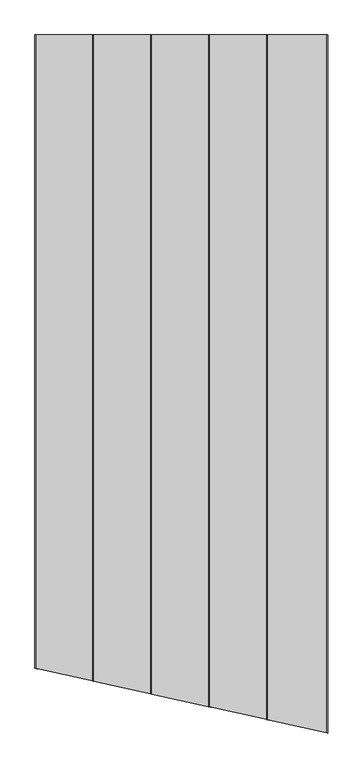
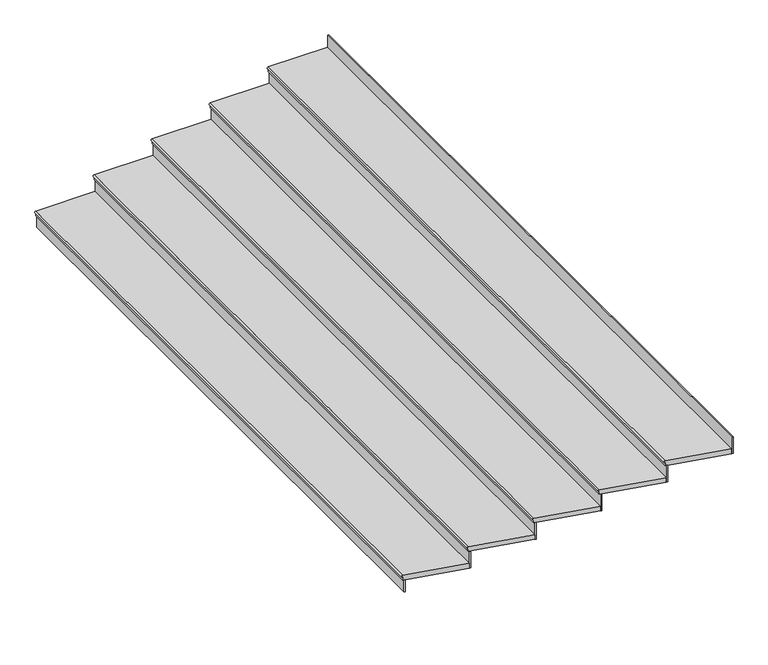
"""IFC4 building model written with IfcOpenShell, lengths in millimetres: stair flight geometry, Wood Steps with 50 mm Tread 20 mm Nosing 13 mm Riser."""

from ifc_helpers import new_model, si_unit, frame, origin, place, context, project, spatial, circle_curve, ellipse_curve, faceted_brep, source, transform, mapped, element, save
from ifc_brep_helpers import plane_surface, cylinder_surface, advanced_brep


def stair_flight_f33c184a(model_context):
    return source(origin(), model_context, "Body", "SolidModel", [
        advanced_brep(
        [(864759.1286387, 76706.6371971, 2159.2941176), (864759.1286387, 76706.6371971, 2179.2941176), (864759.1286387, 83137.2219152, 2179.2941176), (864759.1286387, 83137.2219152, 2159.2941176), (865357.5394107, 83137.2219152, 2179.2941176), (865357.5394107, 76573.969059, 2179.2941176), (864759.1286387, 83137.2219152, 2129.2941176), (865357.5394107, 83137.2219152, 2129.2941176), (865357.5394107, 76573.969059, 2129.2941176), (864759.1286387, 76706.6371971, 2129.2941176)],
        [
            (0, 1, ellipse_curve(frame((864759.1286387, 76706.6371971, 2169.2941176), z_axis=(0.2164453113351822, 0.9762947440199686, 0.0), x_axis=(0.9762947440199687, -0.21644531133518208, 0.0)), 10.2428084, 10.0)),
            (1, 2),
            (2, 3, circle_curve(frame((864759.1286387, 83137.2219152, 2169.2941176), z_axis=(0.0, -1.0, 0.0), x_axis=(1.0, 0.0, 0.0)), 10.0)),
            (3, 0),
            (4, 2),
            (1, 5),
            (5, 4),
            (6, 7),
            (7, 8),
            (8, 9),
            (9, 6),
            (4, 7),
            (6, 3),
            (9, 0),
            (8, 5),
        ],
        [
            cylinder_surface(frame((864759.1286387, 76706.6371971, 2169.2941176), z_axis=(0.0, -1.0, 0.0), x_axis=(1.0, 0.0, 0.0)), 10.0),
            plane_surface(frame((855999.6948183, 83137.2219152, 2179.2941176), z_axis=(0.0, 0.0, 1.0), x_axis=(-1.0, 0.0, 0.0))),
            plane_surface(frame((855999.6948183, 83137.2219152, 2129.2941176), z_axis=(0.0, 0.0, -1.0), x_axis=(1.0, 0.0, 0.0))),
            plane_surface(frame((865357.5394107, 83137.2219152, 2179.2941176), z_axis=(0.0, 1.0, 0.0), x_axis=(0.0, 0.0, -1.0))),
            plane_surface(frame((864759.1286387, 83137.2219152, 2179.2941176), z_axis=(-1.0, 0.0, 0.0), x_axis=(0.0, 0.0, -1.0))),
            plane_surface(frame((864759.1286387, 76706.6371971, 2179.2941176), z_axis=(-0.2164453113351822, -0.9762947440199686, 0.0), x_axis=(0.0, 0.0, -1.0))),
            plane_surface(frame((865357.5394107, 76573.969059, 2179.2941176), z_axis=(1.0, 0.0, 0.0), x_axis=(0.0, 0.0, -1.0))),
        ],
        [
            (0, [[1, 2, 3, 4]]),
            (1, [[5, -2, 6, 7]]),
            (2, [[8, 9, 10, 11]]),
            (3, [[-5, 12, -8, 13, -3]]),
            (4, [[-11, 14, -4, -13]]),
            (5, [[-6, -1, -14, -10, 15]]),
            (6, [[-7, -15, -9, -12]]),
        ],
    ),
        faceted_brep([(864769.1286387, 76704.4201892, 2129.2941176), (864769.1286387, 76704.4201892, 2000.0), (864781.6286387, 76701.6489294, 2000.0), (864781.6286387, 76701.6489294, 2129.2941176), (864769.1286387, 83137.2219152, 2129.2941176), (864781.6286387, 83137.2219152, 2129.2941176), (864781.6286387, 83137.2219152, 2000.0), (864769.1286387, 83137.2219152, 2000.0)], [[[0, 1, 2, 3]], [[4, 5, 6, 7]], [[1, 0, 4, 7]], [[2, 1, 7, 6]], [[3, 2, 6, 5]], [[0, 3, 5, 4]]]),
        faceted_brep([(865357.5394107, 76573.969059, 2308.5882353), (865357.5394107, 76573.969059, 2129.2941176), (865370.0394107, 76571.1977992, 2129.2941176), (865370.0394107, 76571.1977992, 2308.5882353), (865357.5394107, 83137.2219152, 2308.5882353), (865370.0394107, 83137.2219152, 2308.5882353), (865370.0394107, 83137.2219152, 2129.2941176), (865357.5394107, 83137.2219152, 2129.2941176)], [[[0, 1, 2, 3]], [[4, 5, 6, 7]], [[1, 0, 4, 7]], [[2, 1, 7, 6]], [[3, 2, 6, 5]], [[0, 3, 5, 4]]]),
        advanced_brep(
        [(865945.9501827, 83137.2219152, 2358.5882353), (865347.5394107, 83137.2219152, 2358.5882353), (865347.5394107, 76576.1860669, 2358.5882353), (865945.9501827, 76443.5179289, 2358.5882353), (865347.5394107, 83137.2219152, 2308.5882353), (865945.9501827, 83137.2219152, 2308.5882353), (865945.9501827, 76443.5179289, 2308.5882353), (865347.5394107, 76576.1860669, 2308.5882353), (865347.5394107, 83137.2219152, 2338.5882353), (865347.5394107, 76576.1860669, 2338.5882353)],
        [
            (0, 1),
            (1, 2),
            (2, 3),
            (3, 0),
            (4, 5),
            (5, 6),
            (6, 7),
            (7, 4),
            (0, 5),
            (4, 8),
            (8, 1, circle_curve(frame((865347.5394107, 83137.2219152, 2348.5882353), z_axis=(0.0, 1.0, 0.0), x_axis=(1.0, 0.0, 0.0)), 10.0)),
            (7, 9),
            (9, 8),
            (2, 9, ellipse_curve(frame((865347.5394107, 76576.1860669, 2348.5882353), z_axis=(-0.2164453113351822, -0.9762947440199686, 0.0), x_axis=(0.9762947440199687, -0.21644531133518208, 0.0)), 10.2428084, 10.0)),
            (6, 3),
        ],
        [
            plane_surface(frame((855999.6948183, 83137.2219152, 2358.5882353), z_axis=(0.0, 0.0, 1.0), x_axis=(-1.0, 0.0, 0.0))),
            plane_surface(frame((855999.6948183, 83137.2219152, 2308.5882353), z_axis=(0.0, 0.0, -1.0), x_axis=(1.0, 0.0, 0.0))),
            plane_surface(frame((865945.9501827, 83137.2219152, 2358.5882353), z_axis=(0.0, 1.0, 0.0), x_axis=(0.0, 0.0, -1.0))),
            plane_surface(frame((865347.5394107, 83137.2219152, 2358.5882353), z_axis=(-1.0, 0.0, 0.0), x_axis=(0.0, 0.0, -1.0))),
            plane_surface(frame((865347.5394107, 76576.1860669, 2358.5882353), z_axis=(-0.2164453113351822, -0.9762947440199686, 0.0), x_axis=(0.0, 0.0, -1.0))),
            plane_surface(frame((865945.9501827, 76443.5179289, 2358.5882353), z_axis=(1.0, 0.0, 0.0), x_axis=(0.0, 0.0, -1.0))),
            cylinder_surface(frame((865347.5394107, 76576.1860669, 2348.5882353), z_axis=(0.0, -1.0, 0.0), x_axis=(1.0, 0.0, 0.0)), 10.0),
        ],
        [
            (0, [[1, 2, 3, 4]]),
            (1, [[5, 6, 7, 8]]),
            (2, [[-1, 9, -5, 10, 11]]),
            (3, [[-8, 12, 13, -10]]),
            (4, [[-3, 14, -12, -7, 15]]),
            (5, [[-4, -15, -6, -9]]),
            (6, [[-14, -2, -11, -13]]),
        ],
    ),
        faceted_brep([(865945.9501827, 76443.5179289, 2487.8823529), (865945.9501827, 76443.5179289, 2308.5882353), (865958.4501827, 76440.7466691, 2308.5882353), (865958.4501827, 76440.7466691, 2487.8823529), (865945.9501827, 83137.2219152, 2487.8823529), (865958.4501827, 83137.2219152, 2487.8823529), (865958.4501827, 83137.2219152, 2308.5882353), (865945.9501827, 83137.2219152, 2308.5882353)], [[[0, 1, 2, 3]], [[4, 5, 6, 7]], [[1, 0, 4, 7]], [[2, 1, 7, 6]], [[3, 2, 6, 5]], [[0, 3, 5, 4]]]),
        advanced_brep(
        [(866534.3609547, 83137.2219152, 2537.8823529), (865935.9501827, 83137.2219152, 2537.8823529), (865935.9501827, 76445.7349367, 2537.8823529), (866534.3609547, 76313.0667987, 2537.8823529), (865935.9501827, 83137.2219152, 2487.8823529), (866534.3609547, 83137.2219152, 2487.8823529), (866534.3609547, 76313.0667987, 2487.8823529), (865935.9501827, 76445.7349367, 2487.8823529), (865935.9501827, 83137.2219152, 2517.8823529), (865935.9501827, 76445.7349367, 2517.8823529)],
        [
            (0, 1),
            (1, 2),
            (2, 3),
            (3, 0),
            (4, 5),
            (5, 6),
            (6, 7),
            (7, 4),
            (0, 5),
            (4, 8),
            (8, 1, circle_curve(frame((865935.9501827, 83137.2219152, 2527.8823529), z_axis=(0.0, 1.0, 0.0), x_axis=(1.0, 0.0, 0.0)), 10.0)),
            (7, 9),
            (9, 8),
            (2, 9, ellipse_curve(frame((865935.9501827, 76445.7349367, 2527.8823529), z_axis=(-0.2164453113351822, -0.9762947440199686, 0.0), x_axis=(0.9762947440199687, -0.21644531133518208, 0.0)), 10.2428084, 10.0)),
            (6, 3),
        ],
        [
            plane_surface(frame((855999.6948183, 83137.2219152, 2537.8823529), z_axis=(0.0, 0.0, 1.0), x_axis=(-1.0, 0.0, 0.0))),
            plane_surface(frame((855999.6948183, 83137.2219152, 2487.8823529), z_axis=(0.0, 0.0, -1.0), x_axis=(1.0, 0.0, 0.0))),
            plane_surface(frame((866534.3609547, 83137.2219152, 2537.8823529), z_axis=(0.0, 1.0, 0.0), x_axis=(0.0, 0.0, -1.0))),
            plane_surface(frame((865935.9501827, 83137.2219152, 2537.8823529), z_axis=(-1.0, 0.0, 0.0), x_axis=(0.0, 0.0, -1.0))),
            plane_surface(frame((865935.9501827, 76445.7349367, 2537.8823529), z_axis=(-0.2164453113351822, -0.9762947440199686, 0.0), x_axis=(0.0, 0.0, -1.0))),
            plane_surface(frame((866534.3609547, 76313.0667987, 2537.8823529), z_axis=(1.0, 0.0, 0.0), x_axis=(0.0, 0.0, -1.0))),
            cylinder_surface(frame((865935.9501827, 76445.7349367, 2527.8823529), z_axis=(0.0, -1.0, 0.0), x_axis=(1.0, 0.0, 0.0)), 10.0),
        ],
        [
            (0, [[1, 2, 3, 4]]),
            (1, [[5, 6, 7, 8]]),
            (2, [[-1, 9, -5, 10, 11]]),
            (3, [[-8, 12, 13, -10]]),
            (4, [[-3, 14, -12, -7, 15]]),
            (5, [[-4, -15, -6, -9]]),
            (6, [[-14, -2, -11, -13]]),
        ],
    ),
        faceted_brep([(866534.3609547, 76313.0667987, 2667.1764706), (866534.3609547, 76313.0667987, 2487.8823529), (866546.8609547, 76310.2955389, 2487.8823529), (866546.8609547, 76310.2955389, 2667.1764706), (866534.3609547, 83137.2219152, 2667.1764706), (866546.8609547, 83137.2219152, 2667.1764706), (866546.8609547, 83137.2219152, 2487.8823529), (866534.3609547, 83137.2219152, 2487.8823529)], [[[0, 1, 2, 3]], [[4, 5, 6, 7]], [[1, 0, 4, 7]], [[2, 1, 7, 6]], [[3, 2, 6, 5]], [[0, 3, 5, 4]]]),
        advanced_brep(
        [(867122.7717267, 83137.2219152, 2717.1764706), (866524.3609547, 83137.2219152, 2717.1764706), (866524.3609547, 76315.2838066, 2717.1764706), (867122.7717267, 76182.6156685, 2717.1764706), (866524.3609547, 83137.2219152, 2667.1764706), (867122.7717267, 83137.2219152, 2667.1764706), (867122.7717267, 76182.6156685, 2667.1764706), (866524.3609547, 76315.2838066, 2667.1764706), (866524.3609547, 83137.2219152, 2697.1764706), (866524.3609547, 76315.2838066, 2697.1764706)],
        [
            (0, 1),
            (1, 2),
            (2, 3),
            (3, 0),
            (4, 5),
            (5, 6),
            (6, 7),
            (7, 4),
            (0, 5),
            (4, 8),
            (8, 1, circle_curve(frame((866524.3609547, 83137.2219152, 2707.1764706), z_axis=(0.0, 1.0, 0.0), x_axis=(1.0, 0.0, 0.0)), 10.0)),
            (7, 9),
            (9, 8),
            (2, 9, ellipse_curve(frame((866524.3609547, 76315.2838066, 2707.1764706), z_axis=(-0.2164453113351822, -0.9762947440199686, 0.0), x_axis=(0.9762947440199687, -0.21644531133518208, 0.0)), 10.2428084, 10.0)),
            (6, 3),
        ],
        [
            plane_surface(frame((855999.6948183, 83137.2219152, 2717.1764706), z_axis=(0.0, 0.0, 1.0), x_axis=(-1.0, 0.0, 0.0))),
            plane_surface(frame((855999.6948183, 83137.2219152, 2667.1764706), z_axis=(0.0, 0.0, -1.0), x_axis=(1.0, 0.0, 0.0))),
            plane_surface(frame((867122.7717267, 83137.2219152, 2717.1764706), z_axis=(0.0, 1.0, 0.0), x_axis=(0.0, 0.0, -1.0))),
            plane_surface(frame((866524.3609547, 83137.2219152, 2717.1764706), z_axis=(-1.0, 0.0, 0.0), x_axis=(0.0, 0.0, -1.0))),
            plane_surface(frame((866524.3609547, 76315.2838066, 2717.1764706), z_axis=(-0.2164453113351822, -0.9762947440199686, 0.0), x_axis=(0.0, 0.0, -1.0))),
            plane_surface(frame((867122.7717267, 76182.6156685, 2717.1764706), z_axis=(1.0, 0.0, 0.0), x_axis=(0.0, 0.0, -1.0))),
            cylinder_surface(frame((866524.3609547, 76315.2838066, 2707.1764706), z_axis=(0.0, -1.0, 0.0), x_axis=(1.0, 0.0, 0.0)), 10.0),
        ],
        [
            (0, [[1, 2, 3, 4]]),
            (1, [[5, 6, 7, 8]]),
            (2, [[-1, 9, -5, 10, 11]]),
            (3, [[-8, 12, 13, -10]]),
            (4, [[-3, 14, -12, -7, 15]]),
            (5, [[-4, -15, -6, -9]]),
            (6, [[-14, -2, -11, -13]]),
        ],
    ),
        faceted_brep([(867122.7717267, 76182.6156685, 2846.4705882), (867122.7717267, 76182.6156685, 2667.1764706), (867135.2717267, 76179.8444087, 2667.1764706), (867135.2717267, 76179.8444087, 2846.4705882), (867122.7717267, 83137.2219152, 2846.4705882), (867135.2717267, 83137.2219152, 2846.4705882), (867135.2717267, 83137.2219152, 2667.1764706), (867122.7717267, 83137.2219152, 2667.1764706)], [[[0, 1, 2, 3]], [[4, 5, 6, 7]], [[1, 0, 4, 7]], [[2, 1, 7, 6]], [[3, 2, 6, 5]], [[0, 3, 5, 4]]]),
        faceted_brep([(867711.1824987, 76052.1645384, 3025.7647059), (867711.1824987, 76052.1645384, 2846.4705882), (867723.6824987, 76049.3932785, 2846.4705882), (867723.6824987, 76049.3932785, 3025.7647059), (867711.1824987, 83137.2219152, 3025.7647059), (867723.6824987, 83137.2219152, 3025.7647059), (867723.6824987, 83137.2219152, 2846.4705882), (867711.1824987, 83137.2219152, 2846.4705882)], [[[0, 1, 2, 3]], [[4, 5, 6, 7]], [[1, 0, 4, 7]], [[2, 1, 7, 6]], [[3, 2, 6, 5]], [[0, 3, 5, 4]]]),
        advanced_brep(
        [(867711.1824987, 83137.2219152, 2896.4705882), (867112.7717267, 83137.2219152, 2896.4705882), (867112.7717267, 76184.8326764, 2896.4705882), (867711.1824987, 76052.1645384, 2896.4705882), (867112.7717267, 83137.2219152, 2846.4705882), (867711.1824987, 83137.2219152, 2846.4705882), (867711.1824987, 76052.1645384, 2846.4705882), (867112.7717267, 76184.8326764, 2846.4705882), (867112.7717267, 83137.2219152, 2876.4705882), (867112.7717267, 76184.8326764, 2876.4705882)],
        [
            (0, 1),
            (1, 2),
            (2, 3),
            (3, 0),
            (4, 5),
            (5, 6),
            (6, 7),
            (7, 4),
            (0, 5),
            (4, 8),
            (8, 1, circle_curve(frame((867112.7717267, 83137.2219152, 2886.4705882), z_axis=(0.0, 1.0, 0.0), x_axis=(1.0, 0.0, 0.0)), 10.0)),
            (7, 9),
            (9, 8),
            (2, 9, ellipse_curve(frame((867112.7717267, 76184.8326764, 2886.4705882), z_axis=(-0.2164453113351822, -0.9762947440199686, 0.0), x_axis=(0.9762947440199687, -0.21644531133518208, 0.0)), 10.2428084, 10.0)),
            (6, 3),
        ],
        [
            plane_surface(frame((855999.6948183, 83137.2219152, 2896.4705882), z_axis=(0.0, 0.0, 1.0), x_axis=(-1.0, 0.0, 0.0))),
            plane_surface(frame((855999.6948183, 83137.2219152, 2846.4705882), z_axis=(0.0, 0.0, -1.0), x_axis=(1.0, 0.0, 0.0))),
            plane_surface(frame((867711.1824987, 83137.2219152, 2896.4705882), z_axis=(0.0, 1.0, 0.0), x_axis=(0.0, 0.0, -1.0))),
            plane_surface(frame((867112.7717267, 83137.2219152, 2896.4705882), z_axis=(-1.0, 0.0, 0.0), x_axis=(0.0, 0.0, -1.0))),
            plane_surface(frame((867112.7717267, 76184.8326764, 2896.4705882), z_axis=(-0.2164453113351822, -0.9762947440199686, 0.0), x_axis=(0.0, 0.0, -1.0))),
            plane_surface(frame((867711.1824987, 76052.1645384, 2896.4705882), z_axis=(1.0, 0.0, 0.0), x_axis=(0.0, 0.0, -1.0))),
            cylinder_surface(frame((867112.7717267, 76184.8326764, 2886.4705882), z_axis=(0.0, -1.0, 0.0), x_axis=(1.0, 0.0, 0.0)), 10.0),
        ],
        [
            (0, [[1, 2, 3, 4]]),
            (1, [[5, 6, 7, 8]]),
            (2, [[-1, 9, -5, 10, 11]]),
            (3, [[-8, 12, 13, -10]]),
            (4, [[-3, 14, -12, -7, 15]]),
            (5, [[-4, -15, -6, -9]]),
            (6, [[-14, -2, -11, -13]]),
        ],
    ),
    ])


if __name__ == "__main__":
    model = new_model("IFC4")
    model_context = context("Model", 3, world=origin())
    ifc_project = project(units=[si_unit("LENGTHUNIT", "METRE", prefix="MILLI")], contexts=[model_context])
    site = spatial("IfcSite", under=ifc_project)
    building = spatial("IfcBuilding", under=site)
    placement = place(None, origin())
    stair_flight_shape = stair_flight_f33c184a(model_context)
    element("IfcStairFlight", 1, ObjectType="Wood Steps with 50 mm Tread 20 mm Nosing 13 mm Riser", at=placement, inside=building, context=model_context, shape_type="MappedRepresentation", body=[
        mapped(stair_flight_shape, transform((0.0, 0.0, 0.0), x_axis=(1.0, 0.0, 0.0), y_axis=(0.0, 1.0, 0.0), z_axis=(0.0, 0.0, 1.0))),
    ])
    save(model, "model.ifc")
